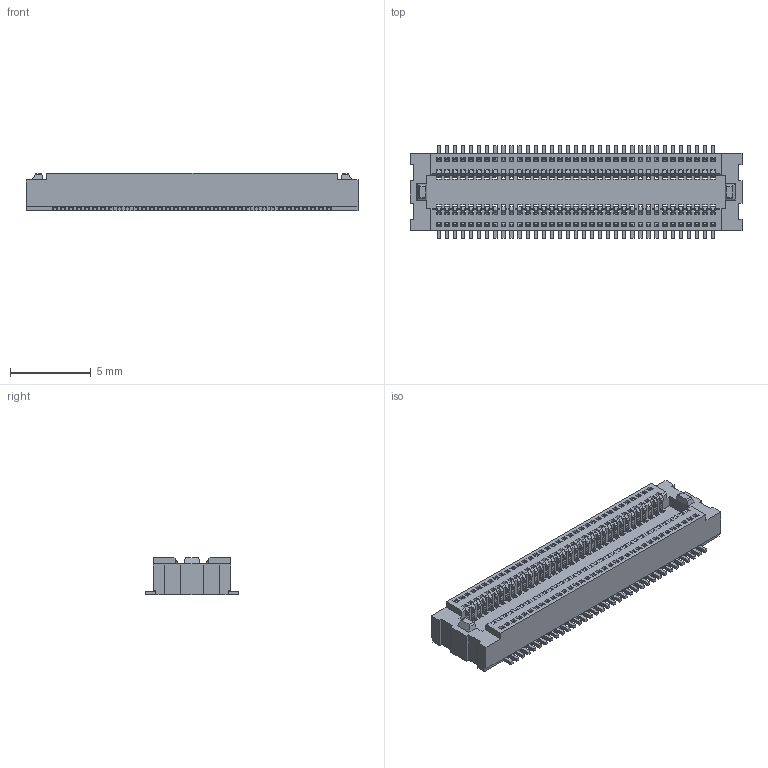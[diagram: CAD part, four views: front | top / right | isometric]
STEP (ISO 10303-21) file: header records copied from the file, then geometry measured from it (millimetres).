
FILE_DESCRIPTION(('CATIA V5 STEP Exchange'),'2;1');
FILE_NAME('F:\黄富鸿\板对板\0.5 单槽\无柱\母座\H2.35\HC-PBB05-1-70-F-H2.35-G1-R-06 (BTB0.5 单槽 母座 立贴 编带)-HCTL.stp','2026-01-20T09:55:58+00:00',('none'),('none'),'CATIA Version 5 Release 20 GA (IN-10)','CATIA V5 STEP AP203','none');
FILE_SCHEMA(('CONFIG_CONTROL_DESIGN'));
Products named in the file (1): Part2
Bounding box: 20.6 x 5.76 x 2.35 mm (x, y, z)
Volume: 151.1 mm3; surface area: 1096.7 mm2
Topology: 71 solids, 71 shells, 3134 faces, 9602 edges, 6400 vertices
Faces by surface type: plane 2150, cylinder 984
Entity records: 91018 total; most frequent: ORIENTED_EDGE 19204, CARTESIAN_POINT 16323, DIRECTION 10078, EDGE_CURVE 9602, VECTOR 7634, LINE 7634, VERTEX_POINT 6400, EDGE_LOOP 3204
